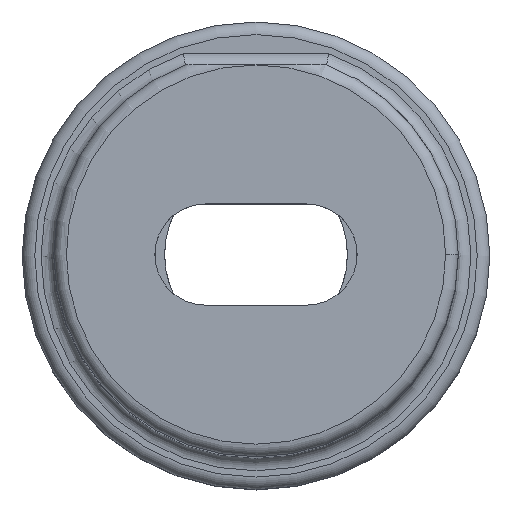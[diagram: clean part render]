
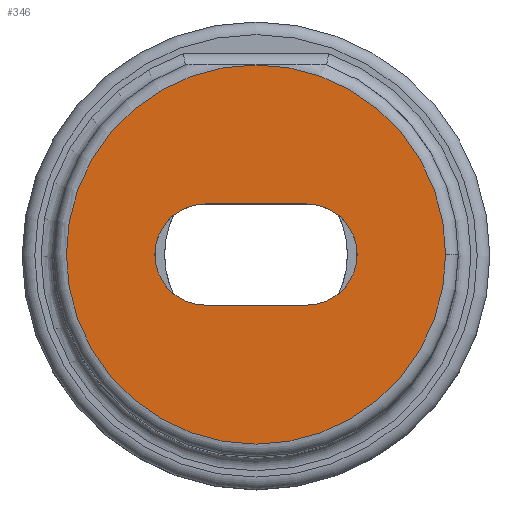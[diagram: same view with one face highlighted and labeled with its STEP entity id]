
A CAD part, top view. The second image highlights one B-rep face of the part: STEP entity #346.
In plain terms, the highlighted planar face has unit normal (0, 0, 1).
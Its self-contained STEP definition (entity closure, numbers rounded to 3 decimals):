
#22=FACE_BOUND('',#97,.T.);
#29=LINE('',#656,#44);
#30=LINE('',#660,#45);
#44=VECTOR('',#487,10.);
#45=VECTOR('',#490,10.);
#56=PLANE('',#404);
#73=FACE_OUTER_BOUND('',#96,.T.);
#96=EDGE_LOOP('',(#264,#265));
#97=EDGE_LOOP('',(#266,#267,#268,#269));
#117=CIRCLE('',#385,15.);
#127=CIRCLE('',#403,15.);
#128=CIRCLE('',#405,4.);
#129=CIRCLE('',#406,4.);
#146=VERTEX_POINT('',#558);
#148=VERTEX_POINT('',#562);
#159=VERTEX_POINT('',#654);
#160=VERTEX_POINT('',#655);
#161=VERTEX_POINT('',#657);
#162=VERTEX_POINT('',#659);
#178=EDGE_CURVE('',#148,#146,#117,.T.);
#196=EDGE_CURVE('',#146,#148,#127,.T.);
#197=EDGE_CURVE('',#159,#160,#29,.T.);
#198=EDGE_CURVE('',#161,#160,#128,.T.);
#199=EDGE_CURVE('',#161,#162,#30,.T.);
#200=EDGE_CURVE('',#159,#162,#129,.T.);
#264=ORIENTED_EDGE('',*,*,#178,.F.);
#265=ORIENTED_EDGE('',*,*,#196,.F.);
#266=ORIENTED_EDGE('',*,*,#197,.T.);
#267=ORIENTED_EDGE('',*,*,#198,.F.);
#268=ORIENTED_EDGE('',*,*,#199,.T.);
#269=ORIENTED_EDGE('',*,*,#200,.F.);
#346=ADVANCED_FACE('',(#73,#22),#56,.T.);
#385=AXIS2_PLACEMENT_3D('',#577,#442,#443);
#403=AXIS2_PLACEMENT_3D('',#652,#483,#484);
#404=AXIS2_PLACEMENT_3D('',#653,#485,#486);
#405=AXIS2_PLACEMENT_3D('',#658,#488,#489);
#406=AXIS2_PLACEMENT_3D('',#661,#491,#492);
#442=DIRECTION('center_axis',(0.,0.,-1.));
#443=DIRECTION('ref_axis',(-1.,0.,0.));
#483=DIRECTION('center_axis',(0.,0.,-1.));
#484=DIRECTION('ref_axis',(-1.,0.,0.));
#485=DIRECTION('center_axis',(0.,0.,1.));
#486=DIRECTION('ref_axis',(1.,0.,0.));
#487=DIRECTION('',(1.,0.,0.));
#488=DIRECTION('center_axis',(0.,0.,1.));
#489=DIRECTION('ref_axis',(0.707,-0.707,0.));
#490=DIRECTION('',(-1.,0.,0.));
#491=DIRECTION('center_axis',(0.,0.,1.));
#492=DIRECTION('ref_axis',(-0.707,0.707,0.));
#558=CARTESIAN_POINT('',(15.,0.,77.5));
#562=CARTESIAN_POINT('',(0.,15.,77.5));
#577=CARTESIAN_POINT('Origin',(0.,0.,77.5));
#652=CARTESIAN_POINT('Origin',(0.,0.,77.5));
#653=CARTESIAN_POINT('Origin',(16.,0.,77.5));
#654=CARTESIAN_POINT('',(-4.,4.,77.5));
#655=CARTESIAN_POINT('',(4.,4.,77.5));
#656=CARTESIAN_POINT('',(4.,4.,77.5));
#657=CARTESIAN_POINT('',(4.,-4.,77.5));
#658=CARTESIAN_POINT('Origin',(4.,0.,77.5));
#659=CARTESIAN_POINT('',(-4.,-4.,77.5));
#660=CARTESIAN_POINT('',(12.,-4.,77.5));
#661=CARTESIAN_POINT('Origin',(-4.,0.,77.5));
